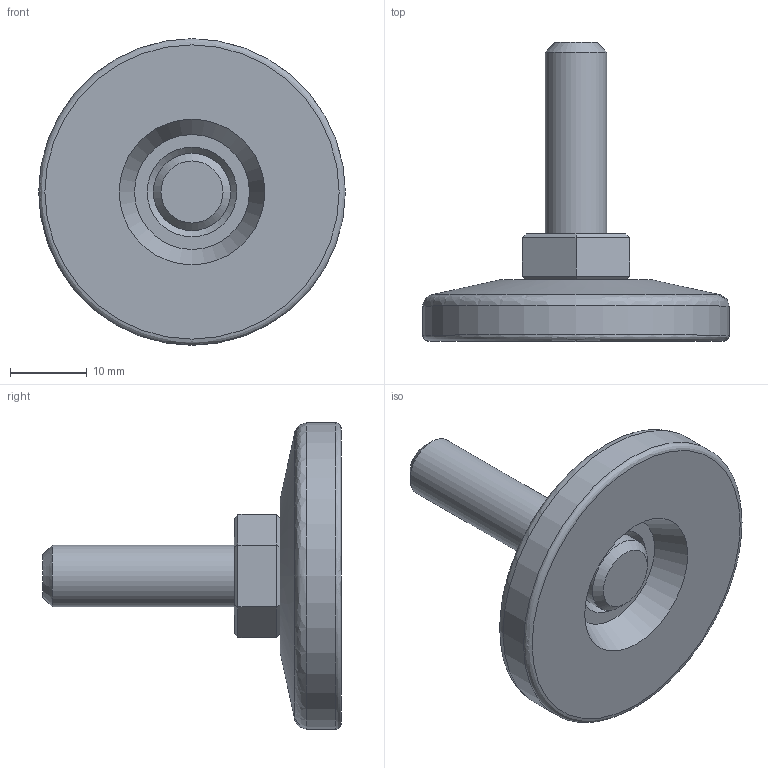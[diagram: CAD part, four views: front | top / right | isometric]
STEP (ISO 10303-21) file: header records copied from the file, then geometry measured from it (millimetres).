
FILE_DESCRIPTION(('STEP AP203'),'2;1');
FILE_NAME('38825.stp','2015-06-15T11:08:45',(''),(''),'2008.1.107','THINKDESIGN','');
FILE_SCHEMA(('CONFIG_CONTROL_DESIGN'));
Length unit declared in the file: millimetre
Bounding box: 40 x 39 x 40 mm (x, y, z)
Volume: 10293.2 mm3; surface area: 4891.4 mm2
Topology: 4 solids, 4 shells, 39 faces, 88 edges, 58 vertices
Faces by surface type: bspline 20, plane 15, cylinder 4
Full cylindrical faces by diameter (mm): 8 x1, 10.1 x2, 40 x1
Entity records: 1611 total; most frequent: CARTESIAN_POINT 668, ORIENTED_EDGE 176, DIRECTION 163, EDGE_CURVE 88, VERTEX_POINT 58, AXIS2_PLACEMENT_3D 56, VECTOR 51, LINE 51
